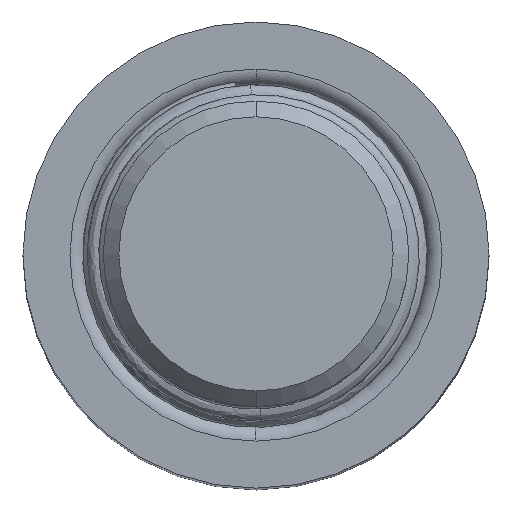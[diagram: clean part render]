
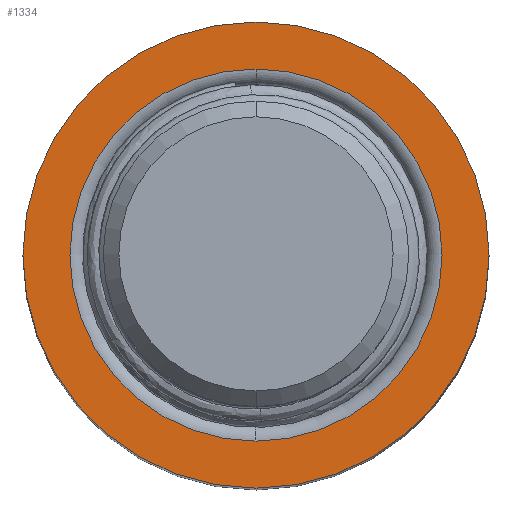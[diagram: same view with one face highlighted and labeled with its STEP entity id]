
A CAD part, top view. The second image highlights one B-rep face of the part: STEP entity #1334.
In plain terms, the highlighted planar face has unit normal (0, 0, 1).
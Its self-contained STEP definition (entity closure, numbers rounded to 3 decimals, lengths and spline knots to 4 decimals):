
#486=CARTESIAN_POINT('',(0.,0.,0.4));
#487=DIRECTION('',(0.,0.,1.));
#488=DIRECTION('',(1.,0.,0.));
#489=AXIS2_PLACEMENT_3D('',#486,#487,#488);
#494=CARTESIAN_POINT('',(0.,0.,0.4));
#495=DIRECTION('',(0.,0.,1.));
#496=DIRECTION('',(-1.,0.,0.));
#497=AXIS2_PLACEMENT_3D('',#494,#495,#496);
#502=CARTESIAN_POINT('',(0.,0.,0.4));
#503=DIRECTION('',(0.,0.,1.));
#504=DIRECTION('',(0.,-1.,0.));
#505=AXIS2_PLACEMENT_3D('',#502,#503,#504);
#510=CARTESIAN_POINT('',(0.,0.,0.4));
#511=DIRECTION('',(0.,0.,1.));
#512=DIRECTION('',(0.,1.,0.));
#513=AXIS2_PLACEMENT_3D('',#510,#511,#512);
#580=CARTESIAN_POINT('',(2.975,0.,0.4));
#581=CARTESIAN_POINT('',(-2.975,0.,0.4));
#582=VERTEX_POINT('',#580);
#583=VERTEX_POINT('',#581);
#630=CARTESIAN_POINT('',(0.,-2.375,0.4));
#631=CARTESIAN_POINT('',(0.,2.375,0.4));
#632=VERTEX_POINT('',#630);
#633=VERTEX_POINT('',#631);
#1319=CARTESIAN_POINT('',(0.,0.,0.4));
#1320=DIRECTION('',(0.,0.,1.));
#1321=DIRECTION('',(1.,0.,0.));
#1322=AXIS2_PLACEMENT_3D('',#1319,#1320,#1321);
#1323=PLANE('',#1322);
#1325=ORIENTED_EDGE('',*,*,#1324,.F.);
#1327=ORIENTED_EDGE('',*,*,#1326,.F.);
#1328=EDGE_LOOP('',(#1325,#1327));
#1329=FACE_OUTER_BOUND('',#1328,.F.);
#1330=ORIENTED_EDGE('',*,*,#1285,.T.);
#1331=ORIENTED_EDGE('',*,*,#1306,.T.);
#1332=EDGE_LOOP('',(#1330,#1331));
#1333=FACE_BOUND('',#1332,.F.);
#490=CIRCLE('',#489,2.975);
#498=CIRCLE('',#497,2.975);
#506=CIRCLE('',#505,2.375);
#514=CIRCLE('',#513,2.375);
#1285=EDGE_CURVE('',#632,#633,#506,.T.);
#1306=EDGE_CURVE('',#633,#632,#514,.T.);
#1324=EDGE_CURVE('',#582,#583,#490,.T.);
#1326=EDGE_CURVE('',#583,#582,#498,.T.);
#1334=ADVANCED_FACE('',(#1329,#1333),#1323,.T.);
